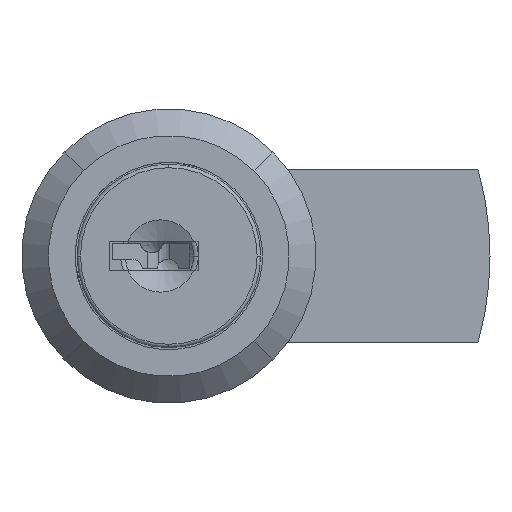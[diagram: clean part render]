
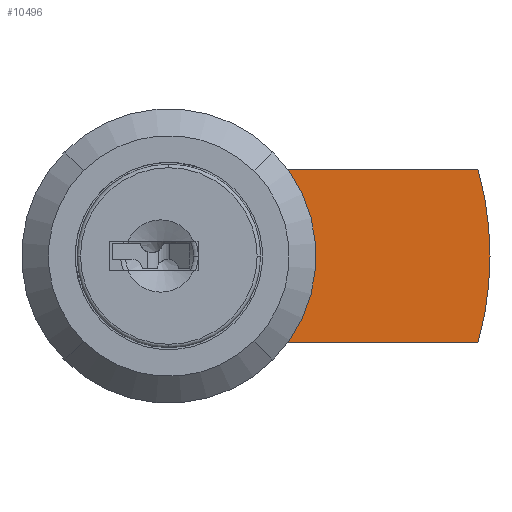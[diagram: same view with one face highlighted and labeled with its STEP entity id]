
A CAD part, front view. The second image highlights one B-rep face of the part: STEP entity #10496.
In plain terms, the highlighted planar face has unit normal (0, -1, 0) as drawn and (0, 0, 1) by its records, which use the part's own axes.
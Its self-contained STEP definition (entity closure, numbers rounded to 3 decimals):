
#9946=CARTESIAN_POINT('',(4.6,0.,1.0));
#9947=VERTEX_POINT('',#9946);
#9956=CARTESIAN_POINT('',(4.331,1.55,1.0));
#9957=VERTEX_POINT('',#9956);
#9958=CARTESIAN_POINT('',(0.0,0.0,1.0));
#9959=DIRECTION('',(0.0,0.0,-1.));
#9960=DIRECTION('',(0.942,0.337,0.0));
#9961=AXIS2_PLACEMENT_3D('',#9958,#9959,#9960);
#9962=CIRCLE('',#9961,4.6);
#9963=EDGE_CURVE('',#9957,#9947,#9962,.T.);
#9988=CARTESIAN_POINT('',(-24.0,0.,1.0));
#9989=VERTEX_POINT('',#9988);
#9998=CARTESIAN_POINT('',(-23.103,6.5,1.0));
#9999=VERTEX_POINT('',#9998);
#10000=CARTESIAN_POINT('',(0.0,0.0,1.0));
#10001=DIRECTION('',(0.0,0.0,1.));
#10002=DIRECTION('',(-0.963,0.271,0.0));
#10003=AXIS2_PLACEMENT_3D('',#10000,#10001,#10002);
#10004=CIRCLE('',#10003,24.);
#10005=EDGE_CURVE('',#9999,#9989,#10004,.T.);
#10032=CARTESIAN_POINT('',(6.5,0.,1.0));
#10033=VERTEX_POINT('',#10032);
#10049=CARTESIAN_POINT('',(0.0,6.5,1.0));
#10050=VERTEX_POINT('',#10049);
#10057=CARTESIAN_POINT('',(0.0,0.0,1.0));
#10058=DIRECTION('',(0.0,0.0,1.0));
#10059=DIRECTION('',(0.0,-1.0,0.0));
#10060=AXIS2_PLACEMENT_3D('',#10057,#10058,#10059);
#10061=CIRCLE('',#10060,6.5);
#10062=EDGE_CURVE('',#10033,#10050,#10061,.T.);
#10259=CARTESIAN_POINT('',(0.0,6.5,1.0));
#10260=DIRECTION('',(-1.0,0.0,0.0));
#10261=VECTOR('',#10260,23.103);
#10262=LINE('',#10259,#10261);
#10263=EDGE_CURVE('',#10050,#9999,#10262,.T.);
#10276=CARTESIAN_POINT('',(0.0,-6.5,1.0));
#10277=VERTEX_POINT('',#10276);
#10278=CARTESIAN_POINT('',(0.0,0.0,1.0));
#10279=DIRECTION('',(0.0,0.0,1.0));
#10280=DIRECTION('',(0.0,-1.0,0.0));
#10281=AXIS2_PLACEMENT_3D('',#10278,#10279,#10280);
#10282=CIRCLE('',#10281,6.5);
#10283=EDGE_CURVE('',#10277,#10033,#10282,.T.);
#10301=CARTESIAN_POINT('',(-23.103,-6.5,1.0));
#10302=VERTEX_POINT('',#10301);
#10303=CARTESIAN_POINT('',(-23.103,-6.5,1.0));
#10304=DIRECTION('',(1.0,0.0,0.0));
#10305=VECTOR('',#10304,23.103);
#10306=LINE('',#10303,#10305);
#10307=EDGE_CURVE('',#10302,#10277,#10306,.T.);
#10327=CARTESIAN_POINT('',(0.0,0.0,1.0));
#10328=DIRECTION('',(0.0,0.0,1.));
#10329=DIRECTION('',(-0.963,0.271,0.0));
#10330=AXIS2_PLACEMENT_3D('',#10327,#10328,#10329);
#10331=CIRCLE('',#10330,24.);
#10332=EDGE_CURVE('',#9989,#10302,#10331,.T.);
#10337=CARTESIAN_POINT('',(-25.513,-7.15,1.0));
#10338=DIRECTION('',(0.0,0.0,1.0));
#10339=DIRECTION('',(1.0,0.0,0.0));
#10340=AXIS2_PLACEMENT_3D('',#10337,#10338,#10339);
#10341=PLANE('',#10340);
#10342=ORIENTED_EDGE('',*,*,#10005,.T.);
#10343=ORIENTED_EDGE('',*,*,#10332,.T.);
#10344=ORIENTED_EDGE('',*,*,#10307,.T.);
#10345=ORIENTED_EDGE('',*,*,#10283,.T.);
#10346=ORIENTED_EDGE('',*,*,#10062,.T.);
#10347=ORIENTED_EDGE('',*,*,#10263,.T.);
#10348=EDGE_LOOP('',(#10342,#10343,#10344,#10345,#10346,#10347));
#10349=FACE_OUTER_BOUND('',#10348,.T.);
#10350=CARTESIAN_POINT('',(-3.249,1.55,1.0));
#10351=VERTEX_POINT('',#10350);
#10352=CARTESIAN_POINT('',(-1.55,3.249,1.0));
#10353=VERTEX_POINT('',#10352);
#10354=CARTESIAN_POINT('',(0.0,0.0,1.0));
#10355=DIRECTION('',(0.0,0.0,-1.0));
#10356=DIRECTION('',(-0.903,0.431,0.0));
#10357=AXIS2_PLACEMENT_3D('',#10354,#10355,#10356);
#10358=CIRCLE('',#10357,3.6);
#10359=EDGE_CURVE('',#10351,#10353,#10358,.T.);
#10360=ORIENTED_EDGE('',*,*,#10359,.T.);
#10361=CARTESIAN_POINT('',(-1.55,4.331,1.0));
#10362=VERTEX_POINT('',#10361);
#10363=CARTESIAN_POINT('',(-1.55,3.249,1.0));
#10364=DIRECTION('',(0.0,1.0,0.0));
#10365=VECTOR('',#10364,1.082);
#10366=LINE('',#10363,#10365);
#10367=EDGE_CURVE('',#10353,#10362,#10366,.T.);
#10368=ORIENTED_EDGE('',*,*,#10367,.T.);
#10369=CARTESIAN_POINT('',(1.55,4.331,1.0));
#10370=VERTEX_POINT('',#10369);
#10371=CARTESIAN_POINT('',(0.0,0.0,1.0));
#10372=DIRECTION('',(0.0,0.0,-1.));
#10373=DIRECTION('',(-0.337,0.942,0.0));
#10374=AXIS2_PLACEMENT_3D('',#10371,#10372,#10373);
#10375=CIRCLE('',#10374,4.6);
#10376=EDGE_CURVE('',#10362,#10370,#10375,.T.);
#10377=ORIENTED_EDGE('',*,*,#10376,.T.);
#10378=CARTESIAN_POINT('',(1.55,3.249,1.0));
#10379=VERTEX_POINT('',#10378);
#10380=CARTESIAN_POINT('',(1.55,4.331,1.0));
#10381=DIRECTION('',(0.0,-1.0,0.0));
#10382=VECTOR('',#10381,1.082);
#10383=LINE('',#10380,#10382);
#10384=EDGE_CURVE('',#10370,#10379,#10383,.T.);
#10385=ORIENTED_EDGE('',*,*,#10384,.T.);
#10386=CARTESIAN_POINT('',(3.249,1.55,1.0));
#10387=VERTEX_POINT('',#10386);
#10388=CARTESIAN_POINT('',(0.0,0.0,1.0));
#10389=DIRECTION('',(0.0,0.0,-1.0));
#10390=DIRECTION('',(0.431,0.903,0.0));
#10391=AXIS2_PLACEMENT_3D('',#10388,#10389,#10390);
#10392=CIRCLE('',#10391,3.6);
#10393=EDGE_CURVE('',#10379,#10387,#10392,.T.);
#10394=ORIENTED_EDGE('',*,*,#10393,.T.);
#10395=CARTESIAN_POINT('',(3.249,1.55,1.0));
#10396=DIRECTION('',(1.0,0.0,0.0));
#10397=VECTOR('',#10396,1.082);
#10398=LINE('',#10395,#10397);
#10399=EDGE_CURVE('',#10387,#9957,#10398,.T.);
#10400=ORIENTED_EDGE('',*,*,#10399,.T.);
#10401=ORIENTED_EDGE('',*,*,#9963,.T.);
#10402=CARTESIAN_POINT('',(4.331,-1.55,1.0));
#10403=VERTEX_POINT('',#10402);
#10404=CARTESIAN_POINT('',(0.0,0.0,1.0));
#10405=DIRECTION('',(0.0,0.0,-1.));
#10406=DIRECTION('',(0.942,0.337,0.0));
#10407=AXIS2_PLACEMENT_3D('',#10404,#10405,#10406);
#10408=CIRCLE('',#10407,4.6);
#10409=EDGE_CURVE('',#9947,#10403,#10408,.T.);
#10410=ORIENTED_EDGE('',*,*,#10409,.T.);
#10411=CARTESIAN_POINT('',(3.249,-1.55,1.0));
#10412=VERTEX_POINT('',#10411);
#10413=CARTESIAN_POINT('',(4.331,-1.55,1.0));
#10414=DIRECTION('',(-1.0,0.0,0.0));
#10415=VECTOR('',#10414,1.082);
#10416=LINE('',#10413,#10415);
#10417=EDGE_CURVE('',#10403,#10412,#10416,.T.);
#10418=ORIENTED_EDGE('',*,*,#10417,.T.);
#10419=CARTESIAN_POINT('',(1.55,-3.249,1.0));
#10420=VERTEX_POINT('',#10419);
#10421=CARTESIAN_POINT('',(0.0,0.0,1.0));
#10422=DIRECTION('',(0.0,0.0,-1.0));
#10423=DIRECTION('',(0.903,-0.431,0.0));
#10424=AXIS2_PLACEMENT_3D('',#10421,#10422,#10423);
#10425=CIRCLE('',#10424,3.6);
#10426=EDGE_CURVE('',#10412,#10420,#10425,.T.);
#10427=ORIENTED_EDGE('',*,*,#10426,.T.);
#10428=CARTESIAN_POINT('',(1.55,-4.331,1.0));
#10429=VERTEX_POINT('',#10428);
#10430=CARTESIAN_POINT('',(1.55,-3.249,1.0));
#10431=DIRECTION('',(0.0,-1.0,0.0));
#10432=VECTOR('',#10431,1.082);
#10433=LINE('',#10430,#10432);
#10434=EDGE_CURVE('',#10420,#10429,#10433,.T.);
#10435=ORIENTED_EDGE('',*,*,#10434,.T.);
#10436=CARTESIAN_POINT('',(-1.55,-4.331,1.0));
#10437=VERTEX_POINT('',#10436);
#10438=CARTESIAN_POINT('',(0.0,0.0,1.0));
#10439=DIRECTION('',(0.0,0.0,-1.));
#10440=DIRECTION('',(0.337,-0.942,0.0));
#10441=AXIS2_PLACEMENT_3D('',#10438,#10439,#10440);
#10442=CIRCLE('',#10441,4.6);
#10443=EDGE_CURVE('',#10429,#10437,#10442,.T.);
#10444=ORIENTED_EDGE('',*,*,#10443,.T.);
#10445=CARTESIAN_POINT('',(-1.55,-3.249,1.0));
#10446=VERTEX_POINT('',#10445);
#10447=CARTESIAN_POINT('',(-1.55,-4.331,1.0));
#10448=DIRECTION('',(0.0,1.0,0.0));
#10449=VECTOR('',#10448,1.082);
#10450=LINE('',#10447,#10449);
#10451=EDGE_CURVE('',#10437,#10446,#10450,.T.);
#10452=ORIENTED_EDGE('',*,*,#10451,.T.);
#10453=CARTESIAN_POINT('',(-3.249,-1.55,1.0));
#10454=VERTEX_POINT('',#10453);
#10455=CARTESIAN_POINT('',(0.0,0.0,1.0));
#10456=DIRECTION('',(0.0,0.0,-1.0));
#10457=DIRECTION('',(-0.431,-0.903,0.0));
#10458=AXIS2_PLACEMENT_3D('',#10455,#10456,#10457);
#10459=CIRCLE('',#10458,3.6);
#10460=EDGE_CURVE('',#10446,#10454,#10459,.T.);
#10461=ORIENTED_EDGE('',*,*,#10460,.T.);
#10462=CARTESIAN_POINT('',(-4.331,-1.55,1.0));
#10463=VERTEX_POINT('',#10462);
#10464=CARTESIAN_POINT('',(-3.249,-1.55,1.0));
#10465=DIRECTION('',(-1.0,0.0,0.0));
#10466=VECTOR('',#10465,1.082);
#10467=LINE('',#10464,#10466);
#10468=EDGE_CURVE('',#10454,#10463,#10467,.T.);
#10469=ORIENTED_EDGE('',*,*,#10468,.T.);
#10470=CARTESIAN_POINT('',(-4.6,0.0,1.0));
#10471=VERTEX_POINT('',#10470);
#10472=CARTESIAN_POINT('',(0.0,0.0,1.0));
#10473=DIRECTION('',(0.0,0.0,-1.));
#10474=DIRECTION('',(-0.942,-0.337,0.0));
#10475=AXIS2_PLACEMENT_3D('',#10472,#10473,#10474);
#10476=CIRCLE('',#10475,4.6);
#10477=EDGE_CURVE('',#10463,#10471,#10476,.T.);
#10478=ORIENTED_EDGE('',*,*,#10477,.T.);
#10479=CARTESIAN_POINT('',(-4.331,1.55,1.0));
#10480=VERTEX_POINT('',#10479);
#10481=CARTESIAN_POINT('',(0.0,0.0,1.0));
#10482=DIRECTION('',(0.0,0.0,-1.0));
#10483=DIRECTION('',(-1.0,0.0,0.0));
#10484=AXIS2_PLACEMENT_3D('',#10481,#10482,#10483);
#10485=CIRCLE('',#10484,4.6);
#10486=EDGE_CURVE('',#10471,#10480,#10485,.T.);
#10487=ORIENTED_EDGE('',*,*,#10486,.T.);
#10488=CARTESIAN_POINT('',(-4.331,1.55,1.0));
#10489=DIRECTION('',(1.0,0.0,0.0));
#10490=VECTOR('',#10489,1.082);
#10491=LINE('',#10488,#10490);
#10492=EDGE_CURVE('',#10480,#10351,#10491,.T.);
#10493=ORIENTED_EDGE('',*,*,#10492,.T.);
#10494=EDGE_LOOP('',(#10360,#10368,#10377,#10385,#10394,#10400,#10401,#10410,#10418,#10427,#10435,#10444,#10452,#10461,#10469,#10478,#10487,#10493));
#10495=FACE_BOUND('',#10494,.T.);
#10496=ADVANCED_FACE('',(#10349,#10495),#10341,.T.);
